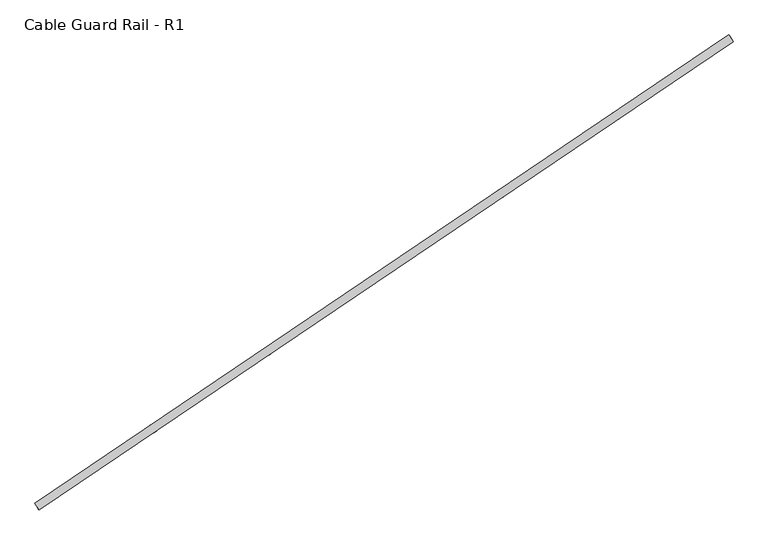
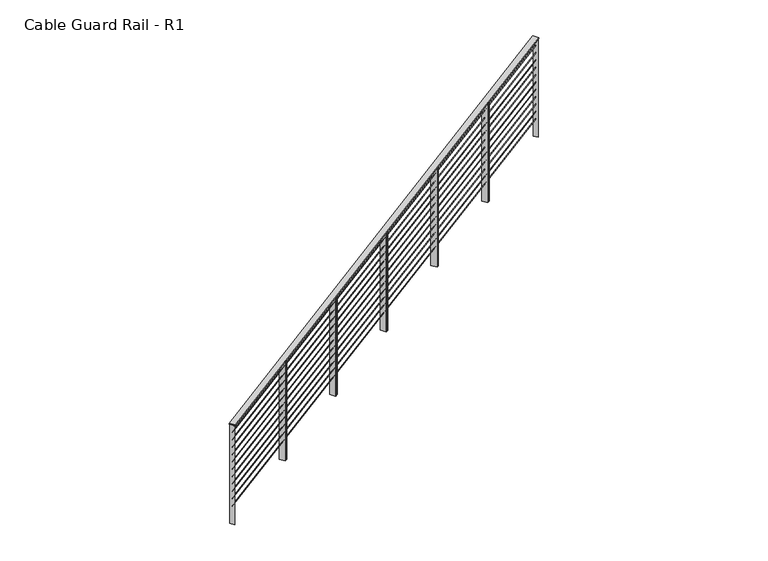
"""IFC4 building model written with IfcOpenShell, lengths in millimetres: railing geometry, Cable Guard Rail - R1."""

from ifc_helpers import new_model, si_unit, frame, origin, place, context, project, spatial, polyline, ellipse_curve, outline, extrude, faceted_brep, source, transform, mapped, element, save
from ifc_brep_helpers import plane_surface, cylinder_surface, advanced_brep


def cable_guard_rail_r1_a56fe9ce(model_context):
    return source(origin(), model_context, "Body", "SolidModel", [
        faceted_brep([(46534.635688, 176651.9812414, 294474.9), (46577.3032099, 176588.8470781, 294474.9), (46577.3032099, 176588.8470781, 294462.1825136), (46534.635688, 176651.9812414, 294462.1825136), (40031.8168706, 172257.2264829, 294062.8921736), (40031.8168706, 172257.2264829, 294050.1746872), (40074.4843925, 172194.0923196, 294050.1746872), (40074.4843925, 172194.0923196, 294062.8921736)], [[[0, 1, 2, 3]], [[4, 5, 6, 7]], [[1, 0, 4, 7]], [[2, 1, 7, 6]], [[3, 2, 6, 5]], [[0, 3, 5, 4]]]),
        advanced_brep(
        [(46557.7472624, 176617.7835696, 294360.6), (46554.1916356, 176623.0447499, 294360.6), (40054.9284449, 172223.0288111, 293948.5921736), (40051.3728181, 172228.2899914, 293948.5921736)],
        [
            (0, 1, ellipse_curve(frame((46555.969449, 176620.4141597, 294360.6), z_axis=(0.8285323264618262, 0.5599412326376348, 0.0), x_axis=(0.0, 0.0, 1.0)), 3.1793716, 3.175)),
            (1, 0, ellipse_curve(frame((46555.969449, 176620.4141597, 294360.6), z_axis=(0.8285323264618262, 0.5599412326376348, 0.0), x_axis=(0.0, 0.0, 1.0)), 3.1793716, 3.175)),
            (2, 3, ellipse_curve(frame((40053.1506315, 172225.6594012, 293948.5921736), z_axis=(-0.8285323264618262, -0.5599412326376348, 0.0), x_axis=(0.0, 0.0, 1.0)), 3.1793716, 3.175)),
            (3, 2, ellipse_curve(frame((40053.1506315, 172225.6594012, 293948.5921736), z_axis=(-0.8285323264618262, -0.5599412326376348, 0.0), x_axis=(0.0, 0.0, 1.0)), 3.1793716, 3.175)),
            (0, 2),
            (3, 1),
        ],
        [
            plane_surface(frame((46555.969449, 176620.4141597, 294360.6), z_axis=(0.8285323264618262, 0.5599412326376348, 0.0), x_axis=(0.5599412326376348, -0.8285323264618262, 0.0))),
            plane_surface(frame((40053.1506315, 172225.6594012, 293948.5921736), z_axis=(-0.8285323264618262, -0.5599412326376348, 0.0), x_axis=(0.5599412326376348, -0.8285323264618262, 0.0))),
            cylinder_surface(frame((46555.969449, 176620.4141597, 294360.6), z_axis=(0.8273931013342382, 0.5591713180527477, 0.05242225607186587), x_axis=(-0.5599412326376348, 0.8285323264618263, 0.0)), 3.175),
        ],
        [
            (0, [[1, 2]]),
            (1, [[3, 4]]),
            (2, [[-1, 5, -4, 6]]),
            (2, [[-2, -6, -3, -5]]),
        ],
    ),
        advanced_brep(
        [(46557.7472624, 176617.7835696, 294259.0), (46554.1916356, 176623.0447499, 294259.0), (40054.9284449, 172223.0288111, 293846.9921736), (40051.3728181, 172228.2899914, 293846.9921736)],
        [
            (0, 1, ellipse_curve(frame((46555.969449, 176620.4141597, 294259.0), z_axis=(0.8285323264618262, 0.5599412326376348, 0.0), x_axis=(0.0, 0.0, 1.0)), 3.1793716, 3.175)),
            (1, 0, ellipse_curve(frame((46555.969449, 176620.4141597, 294259.0), z_axis=(0.8285323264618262, 0.5599412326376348, 0.0), x_axis=(0.0, 0.0, 1.0)), 3.1793716, 3.175)),
            (2, 3, ellipse_curve(frame((40053.1506315, 172225.6594012, 293846.9921736), z_axis=(-0.8285323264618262, -0.5599412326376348, 0.0), x_axis=(0.0, 0.0, 1.0)), 3.1793716, 3.175)),
            (3, 2, ellipse_curve(frame((40053.1506315, 172225.6594012, 293846.9921736), z_axis=(-0.8285323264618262, -0.5599412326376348, 0.0), x_axis=(0.0, 0.0, 1.0)), 3.1793716, 3.175)),
            (0, 2),
            (3, 1),
        ],
        [
            plane_surface(frame((46555.969449, 176620.4141597, 294259.0), z_axis=(0.8285323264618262, 0.5599412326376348, 0.0), x_axis=(0.5599412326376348, -0.8285323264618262, 0.0))),
            plane_surface(frame((40053.1506315, 172225.6594012, 293846.9921736), z_axis=(-0.8285323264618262, -0.5599412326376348, 0.0), x_axis=(0.5599412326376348, -0.8285323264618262, 0.0))),
            cylinder_surface(frame((46555.969449, 176620.4141597, 294259.0), z_axis=(0.8273931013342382, 0.5591713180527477, 0.05242225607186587), x_axis=(-0.5599412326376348, 0.8285323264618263, 0.0)), 3.175),
        ],
        [
            (0, [[1, 2]]),
            (1, [[3, 4]]),
            (2, [[-1, 5, -4, 6]]),
            (2, [[-2, -6, -3, -5]]),
        ],
    ),
        advanced_brep(
        [(46557.7472624, 176617.7835696, 294157.4), (46554.1916356, 176623.0447499, 294157.4), (40054.9284449, 172223.0288111, 293745.3921736), (40051.3728181, 172228.2899914, 293745.3921736)],
        [
            (0, 1, ellipse_curve(frame((46555.969449, 176620.4141597, 294157.4), z_axis=(0.8285323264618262, 0.5599412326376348, 0.0), x_axis=(0.0, 0.0, 1.0)), 3.1793716, 3.175)),
            (1, 0, ellipse_curve(frame((46555.969449, 176620.4141597, 294157.4), z_axis=(0.8285323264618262, 0.5599412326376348, 0.0), x_axis=(0.0, 0.0, 1.0)), 3.1793716, 3.175)),
            (2, 3, ellipse_curve(frame((40053.1506315, 172225.6594012, 293745.3921736), z_axis=(-0.8285323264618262, -0.5599412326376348, 0.0), x_axis=(0.0, 0.0, 1.0)), 3.1793716, 3.175)),
            (3, 2, ellipse_curve(frame((40053.1506315, 172225.6594012, 293745.3921736), z_axis=(-0.8285323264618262, -0.5599412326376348, 0.0), x_axis=(0.0, 0.0, 1.0)), 3.1793716, 3.175)),
            (0, 2),
            (3, 1),
        ],
        [
            plane_surface(frame((46555.969449, 176620.4141597, 294157.4), z_axis=(0.8285323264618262, 0.5599412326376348, 0.0), x_axis=(0.5599412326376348, -0.8285323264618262, 0.0))),
            plane_surface(frame((40053.1506315, 172225.6594012, 293745.3921736), z_axis=(-0.8285323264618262, -0.5599412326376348, 0.0), x_axis=(0.5599412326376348, -0.8285323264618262, 0.0))),
            cylinder_surface(frame((46555.969449, 176620.4141597, 294157.4), z_axis=(0.8273931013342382, 0.5591713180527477, 0.05242225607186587), x_axis=(-0.5599412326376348, 0.8285323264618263, 0.0)), 3.175),
        ],
        [
            (0, [[1, 2]]),
            (1, [[3, 4]]),
            (2, [[-1, 5, -4, 6]]),
            (2, [[-2, -6, -3, -5]]),
        ],
    ),
        advanced_brep(
        [(46557.7472624, 176617.7835696, 294055.8), (46554.1916356, 176623.0447499, 294055.8), (40054.9284449, 172223.0288111, 293643.7921736), (40051.3728181, 172228.2899914, 293643.7921736)],
        [
            (0, 1, ellipse_curve(frame((46555.969449, 176620.4141597, 294055.8), z_axis=(0.8285323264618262, 0.5599412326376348, 0.0), x_axis=(0.0, 0.0, 1.0)), 3.1793716, 3.175)),
            (1, 0, ellipse_curve(frame((46555.969449, 176620.4141597, 294055.8), z_axis=(0.8285323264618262, 0.5599412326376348, 0.0), x_axis=(0.0, 0.0, 1.0)), 3.1793716, 3.175)),
            (2, 3, ellipse_curve(frame((40053.1506315, 172225.6594012, 293643.7921736), z_axis=(-0.8285323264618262, -0.5599412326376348, 0.0), x_axis=(0.0, 0.0, 1.0)), 3.1793716, 3.175)),
            (3, 2, ellipse_curve(frame((40053.1506315, 172225.6594012, 293643.7921736), z_axis=(-0.8285323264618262, -0.5599412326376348, 0.0), x_axis=(0.0, 0.0, 1.0)), 3.1793716, 3.175)),
            (0, 2),
            (3, 1),
        ],
        [
            plane_surface(frame((46555.969449, 176620.4141597, 294055.8), z_axis=(0.8285323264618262, 0.5599412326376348, 0.0), x_axis=(0.5599412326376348, -0.8285323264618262, 0.0))),
            plane_surface(frame((40053.1506315, 172225.6594012, 293643.7921736), z_axis=(-0.8285323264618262, -0.5599412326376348, 0.0), x_axis=(0.5599412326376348, -0.8285323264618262, 0.0))),
            cylinder_surface(frame((46555.969449, 176620.4141597, 294055.8), z_axis=(0.8273931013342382, 0.5591713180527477, 0.05242225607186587), x_axis=(-0.5599412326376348, 0.8285323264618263, 0.0)), 3.175),
        ],
        [
            (0, [[1, 2]]),
            (1, [[3, 4]]),
            (2, [[-1, 5, -4, 6]]),
            (2, [[-2, -6, -3, -5]]),
        ],
    ),
        advanced_brep(
        [(46557.7472624, 176617.7835696, 293954.2), (46554.1916356, 176623.0447499, 293954.2), (40054.9284449, 172223.0288111, 293542.1921736), (40051.3728181, 172228.2899914, 293542.1921736)],
        [
            (0, 1, ellipse_curve(frame((46555.969449, 176620.4141597, 293954.2), z_axis=(0.8285323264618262, 0.5599412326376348, 0.0), x_axis=(0.0, 0.0, 1.0)), 3.1793716, 3.175)),
            (1, 0, ellipse_curve(frame((46555.969449, 176620.4141597, 293954.2), z_axis=(0.8285323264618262, 0.5599412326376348, 0.0), x_axis=(0.0, 0.0, 1.0)), 3.1793716, 3.175)),
            (2, 3, ellipse_curve(frame((40053.1506315, 172225.6594012, 293542.1921736), z_axis=(-0.8285323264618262, -0.5599412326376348, 0.0), x_axis=(0.0, 0.0, 1.0)), 3.1793716, 3.175)),
            (3, 2, ellipse_curve(frame((40053.1506315, 172225.6594012, 293542.1921736), z_axis=(-0.8285323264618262, -0.5599412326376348, 0.0), x_axis=(0.0, 0.0, 1.0)), 3.1793716, 3.175)),
            (0, 2),
            (3, 1),
        ],
        [
            plane_surface(frame((46555.969449, 176620.4141597, 293954.2), z_axis=(0.8285323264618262, 0.5599412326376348, 0.0), x_axis=(0.5599412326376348, -0.8285323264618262, 0.0))),
            plane_surface(frame((40053.1506315, 172225.6594012, 293542.1921736), z_axis=(-0.8285323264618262, -0.5599412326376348, 0.0), x_axis=(0.5599412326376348, -0.8285323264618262, 0.0))),
            cylinder_surface(frame((46555.969449, 176620.4141597, 293954.2), z_axis=(0.8273931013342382, 0.5591713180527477, 0.05242225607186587), x_axis=(-0.5599412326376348, 0.8285323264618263, 0.0)), 3.175),
        ],
        [
            (0, [[1, 2]]),
            (1, [[3, 4]]),
            (2, [[-1, 5, -4, 6]]),
            (2, [[-2, -6, -3, -5]]),
        ],
    ),
        advanced_brep(
        [(46557.7472624, 176617.7835696, 293852.6), (46554.1916356, 176623.0447499, 293852.6), (40054.9284449, 172223.0288111, 293440.5921736), (40051.3728181, 172228.2899914, 293440.5921736)],
        [
            (0, 1, ellipse_curve(frame((46555.969449, 176620.4141597, 293852.6), z_axis=(0.8285323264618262, 0.5599412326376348, 0.0), x_axis=(0.0, 0.0, 1.0)), 3.1793716, 3.175)),
            (1, 0, ellipse_curve(frame((46555.969449, 176620.4141597, 293852.6), z_axis=(0.8285323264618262, 0.5599412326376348, 0.0), x_axis=(0.0, 0.0, 1.0)), 3.1793716, 3.175)),
            (2, 3, ellipse_curve(frame((40053.1506315, 172225.6594012, 293440.5921736), z_axis=(-0.8285323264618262, -0.5599412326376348, 0.0), x_axis=(0.0, 0.0, 1.0)), 3.1793716, 3.175)),
            (3, 2, ellipse_curve(frame((40053.1506315, 172225.6594012, 293440.5921736), z_axis=(-0.8285323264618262, -0.5599412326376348, 0.0), x_axis=(0.0, 0.0, 1.0)), 3.1793716, 3.175)),
            (0, 2),
            (3, 1),
        ],
        [
            plane_surface(frame((46555.969449, 176620.4141597, 293852.6), z_axis=(0.8285323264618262, 0.5599412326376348, 0.0), x_axis=(0.5599412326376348, -0.8285323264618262, 0.0))),
            plane_surface(frame((40053.1506315, 172225.6594012, 293440.5921736), z_axis=(-0.8285323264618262, -0.5599412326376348, 0.0), x_axis=(0.5599412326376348, -0.8285323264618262, 0.0))),
            cylinder_surface(frame((46555.969449, 176620.4141597, 293852.6), z_axis=(0.8273931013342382, 0.5591713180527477, 0.05242225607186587), x_axis=(-0.5599412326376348, 0.8285323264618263, 0.0)), 3.175),
        ],
        [
            (0, [[1, 2]]),
            (1, [[3, 4]]),
            (2, [[-1, 5, -4, 6]]),
            (2, [[-2, -6, -3, -5]]),
        ],
    ),
        advanced_brep(
        [(46557.7472624, 176617.7835696, 293751.0), (46554.1916356, 176623.0447499, 293751.0), (40054.9284449, 172223.0288111, 293338.9921736), (40051.3728181, 172228.2899914, 293338.9921736)],
        [
            (0, 1, ellipse_curve(frame((46555.969449, 176620.4141597, 293751.0), z_axis=(0.8285323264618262, 0.5599412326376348, 0.0), x_axis=(0.0, 0.0, 1.0)), 3.1793716, 3.175)),
            (1, 0, ellipse_curve(frame((46555.969449, 176620.4141597, 293751.0), z_axis=(0.8285323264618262, 0.5599412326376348, 0.0), x_axis=(0.0, 0.0, 1.0)), 3.1793716, 3.175)),
            (2, 3, ellipse_curve(frame((40053.1506315, 172225.6594012, 293338.9921736), z_axis=(-0.8285323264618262, -0.5599412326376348, 0.0), x_axis=(0.0, 0.0, 1.0)), 3.1793716, 3.175)),
            (3, 2, ellipse_curve(frame((40053.1506315, 172225.6594012, 293338.9921736), z_axis=(-0.8285323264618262, -0.5599412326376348, 0.0), x_axis=(0.0, 0.0, 1.0)), 3.1793716, 3.175)),
            (0, 2),
            (3, 1),
        ],
        [
            plane_surface(frame((46555.969449, 176620.4141597, 293751.0), z_axis=(0.8285323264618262, 0.5599412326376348, 0.0), x_axis=(0.5599412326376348, -0.8285323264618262, 0.0))),
            plane_surface(frame((40053.1506315, 172225.6594012, 293338.9921736), z_axis=(-0.8285323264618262, -0.5599412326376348, 0.0), x_axis=(0.5599412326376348, -0.8285323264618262, 0.0))),
            cylinder_surface(frame((46555.969449, 176620.4141597, 293751.0), z_axis=(0.8273931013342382, 0.5591713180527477, 0.05242225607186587), x_axis=(-0.5599412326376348, 0.8285323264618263, 0.0)), 3.175),
        ],
        [
            (0, [[1, 2]]),
            (1, [[3, 4]]),
            (2, [[-1, 5, -4, 6]]),
            (2, [[-2, -6, -3, -5]]),
        ],
    ),
        advanced_brep(
        [(46557.7472624, 176617.7835696, 293649.4), (46554.1916356, 176623.0447499, 293649.4), (40054.9284449, 172223.0288111, 293237.3921736), (40051.3728181, 172228.2899914, 293237.3921736)],
        [
            (0, 1, ellipse_curve(frame((46555.969449, 176620.4141597, 293649.4), z_axis=(0.8285323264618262, 0.5599412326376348, 0.0), x_axis=(0.0, 0.0, 1.0)), 3.1793716, 3.175)),
            (1, 0, ellipse_curve(frame((46555.969449, 176620.4141597, 293649.4), z_axis=(0.8285323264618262, 0.5599412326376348, 0.0), x_axis=(0.0, 0.0, 1.0)), 3.1793716, 3.175)),
            (2, 3, ellipse_curve(frame((40053.1506315, 172225.6594012, 293237.3921736), z_axis=(-0.8285323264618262, -0.5599412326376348, 0.0), x_axis=(0.0, 0.0, 1.0)), 3.1793716, 3.175)),
            (3, 2, ellipse_curve(frame((40053.1506315, 172225.6594012, 293237.3921736), z_axis=(-0.8285323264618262, -0.5599412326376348, 0.0), x_axis=(0.0, 0.0, 1.0)), 3.1793716, 3.175)),
            (0, 2),
            (3, 1),
        ],
        [
            plane_surface(frame((46555.969449, 176620.4141597, 293649.4), z_axis=(0.8285323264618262, 0.5599412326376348, 0.0), x_axis=(0.5599412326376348, -0.8285323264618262, 0.0))),
            plane_surface(frame((40053.1506315, 172225.6594012, 293237.3921736), z_axis=(-0.8285323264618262, -0.5599412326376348, 0.0), x_axis=(0.5599412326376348, -0.8285323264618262, 0.0))),
            cylinder_surface(frame((46555.969449, 176620.4141597, 293649.4), z_axis=(0.8273931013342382, 0.5591713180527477, 0.05242225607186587), x_axis=(-0.5599412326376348, 0.8285323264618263, 0.0)), 3.175),
        ],
        [
            (0, [[1, 2]]),
            (1, [[3, 4]]),
            (2, [[-1, 5, -4, 6]]),
            (2, [[-2, -6, -3, -5]]),
        ],
    ),
        advanced_brep(
        [(46557.7472624, 176617.7835696, 293547.8), (46554.1916356, 176623.0447499, 293547.8), (40054.9284449, 172223.0288111, 293135.7921736), (40051.3728181, 172228.2899914, 293135.7921736)],
        [
            (0, 1, ellipse_curve(frame((46555.969449, 176620.4141597, 293547.8), z_axis=(0.8285323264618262, 0.5599412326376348, 0.0), x_axis=(0.0, 0.0, 1.0)), 3.1793716, 3.175)),
            (1, 0, ellipse_curve(frame((46555.969449, 176620.4141597, 293547.8), z_axis=(0.8285323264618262, 0.5599412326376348, 0.0), x_axis=(0.0, 0.0, 1.0)), 3.1793716, 3.175)),
            (2, 3, ellipse_curve(frame((40053.1506315, 172225.6594012, 293135.7921736), z_axis=(-0.8285323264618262, -0.5599412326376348, 0.0), x_axis=(0.0, 0.0, 1.0)), 3.1793716, 3.175)),
            (3, 2, ellipse_curve(frame((40053.1506315, 172225.6594012, 293135.7921736), z_axis=(-0.8285323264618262, -0.5599412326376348, 0.0), x_axis=(0.0, 0.0, 1.0)), 3.1793716, 3.175)),
            (0, 2),
            (3, 1),
        ],
        [
            plane_surface(frame((46555.969449, 176620.4141597, 293547.8), z_axis=(0.8285323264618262, 0.5599412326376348, 0.0), x_axis=(0.5599412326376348, -0.8285323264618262, 0.0))),
            plane_surface(frame((40053.1506315, 172225.6594012, 293135.7921736), z_axis=(-0.8285323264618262, -0.5599412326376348, 0.0), x_axis=(0.5599412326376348, -0.8285323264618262, 0.0))),
            cylinder_surface(frame((46555.969449, 176620.4141597, 293547.8), z_axis=(0.8273931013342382, 0.5591713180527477, 0.05242225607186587), x_axis=(-0.5599412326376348, 0.8285323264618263, 0.0)), 3.175),
        ],
        [
            (0, [[1, 2]]),
            (1, [[3, 4]]),
            (2, [[-1, 5, -4, 6]]),
            (2, [[-2, -6, -3, -5]]),
        ],
    ),
        advanced_brep(
        [(46557.7472624, 176617.7835696, 293446.2), (46554.1916356, 176623.0447499, 293446.2), (40054.9284449, 172223.0288111, 293034.1921736), (40051.3728181, 172228.2899914, 293034.1921736)],
        [
            (0, 1, ellipse_curve(frame((46555.969449, 176620.4141597, 293446.2), z_axis=(0.8285323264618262, 0.5599412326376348, 0.0), x_axis=(0.0, 0.0, 1.0)), 3.1793716, 3.175)),
            (1, 0, ellipse_curve(frame((46555.969449, 176620.4141597, 293446.2), z_axis=(0.8285323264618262, 0.5599412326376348, 0.0), x_axis=(0.0, 0.0, 1.0)), 3.1793716, 3.175)),
            (2, 3, ellipse_curve(frame((40053.1506315, 172225.6594012, 293034.1921736), z_axis=(-0.8285323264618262, -0.5599412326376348, 0.0), x_axis=(0.0, 0.0, 1.0)), 3.1793716, 3.175)),
            (3, 2, ellipse_curve(frame((40053.1506315, 172225.6594012, 293034.1921736), z_axis=(-0.8285323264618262, -0.5599412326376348, 0.0), x_axis=(0.0, 0.0, 1.0)), 3.1793716, 3.175)),
            (0, 2),
            (3, 1),
        ],
        [
            plane_surface(frame((46555.969449, 176620.4141597, 293446.2), z_axis=(0.8285323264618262, 0.5599412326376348, 0.0), x_axis=(0.5599412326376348, -0.8285323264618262, 0.0))),
            plane_surface(frame((40053.1506315, 172225.6594012, 293034.1921736), z_axis=(-0.8285323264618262, -0.5599412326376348, 0.0), x_axis=(0.5599412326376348, -0.8285323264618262, 0.0))),
            cylinder_surface(frame((46555.969449, 176620.4141597, 293446.2), z_axis=(0.8273931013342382, 0.5591713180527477, 0.05242225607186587), x_axis=(-0.5599412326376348, 0.8285323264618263, 0.0)), 3.175),
        ],
        [
            (0, [[1, 2]]),
            (1, [[3, 4]]),
            (2, [[-1, 5, -4, 6]]),
            (2, [[-2, -6, -3, -5]]),
        ],
    ),
        advanced_brep(
        [(46557.7472624, 176617.7835696, 293344.6), (46554.1916356, 176623.0447499, 293344.6), (40054.9284449, 172223.0288111, 292932.5921736), (40051.3728181, 172228.2899914, 292932.5921736)],
        [
            (0, 1, ellipse_curve(frame((46555.969449, 176620.4141597, 293344.6), z_axis=(0.8285323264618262, 0.5599412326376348, 0.0), x_axis=(0.0, 0.0, 1.0)), 3.1793716, 3.175)),
            (1, 0, ellipse_curve(frame((46555.969449, 176620.4141597, 293344.6), z_axis=(0.8285323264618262, 0.5599412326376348, 0.0), x_axis=(0.0, 0.0, 1.0)), 3.1793716, 3.175)),
            (2, 3, ellipse_curve(frame((40053.1506315, 172225.6594012, 292932.5921736), z_axis=(-0.8285323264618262, -0.5599412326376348, 0.0), x_axis=(0.0, 0.0, 1.0)), 3.1793716, 3.175)),
            (3, 2, ellipse_curve(frame((40053.1506315, 172225.6594012, 292932.5921736), z_axis=(-0.8285323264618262, -0.5599412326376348, 0.0), x_axis=(0.0, 0.0, 1.0)), 3.1793716, 3.175)),
            (0, 2),
            (3, 1),
        ],
        [
            plane_surface(frame((46555.969449, 176620.4141597, 293344.6), z_axis=(0.8285323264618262, 0.5599412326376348, 0.0), x_axis=(0.5599412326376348, -0.8285323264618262, 0.0))),
            plane_surface(frame((40053.1506315, 172225.6594012, 292932.5921736), z_axis=(-0.8285323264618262, -0.5599412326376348, 0.0), x_axis=(0.5599412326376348, -0.8285323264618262, 0.0))),
            cylinder_surface(frame((46555.969449, 176620.4141597, 293344.6), z_axis=(0.8273931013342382, 0.5591713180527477, 0.05242225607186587), x_axis=(-0.5599412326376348, 0.8285323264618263, 0.0)), 3.175),
        ],
        [
            (0, [[1, 2]]),
            (1, [[3, 4]]),
            (2, [[-1, 5, -4, 6]]),
            (2, [[-2, -6, -3, -5]]),
        ],
    ),
        extrude(outline(polyline([(41176.7016597, 172938.9961399), (41168.8098893, 172933.6626997), (41126.1423673, 172996.796863), (41134.0341378, 173002.1303032), (41176.7016597, 172938.9961399)])), frame((0.0, 0.0, 292753.6101447), z_axis=(0.0, 0.0, 1.0), x_axis=(1.0, 0.0, 0.0)), (0.0, 0.0, 1.0), 1365.25),
        extrude(outline(polyline([(41153.0263485, 172922.9958192), (41145.1745426, 172917.6893879), (41102.5070207, 172980.8235512), (41110.3588265, 172986.1299825), (41153.0263485, 172922.9958192)])), frame((0.0, 0.0, 292753.6101447), z_axis=(0.0, 0.0, 1.0), x_axis=(1.0, 0.0, 0.0)), (0.0, 0.0, 1.0), 1365.25),
        extrude(outline(polyline([(42260.5047959, 173671.4552663), (42252.6130255, 173666.1218261), (42209.9455036, 173729.2559894), (42217.837274, 173734.5894296), (42260.5047959, 173671.4552663)])), frame((0.0, 0.0, 292822.2781158), z_axis=(0.0, 0.0, 1.0), x_axis=(1.0, 0.0, 0.0)), (0.0, 0.0, 1.0), 1365.25),
        extrude(outline(polyline([(42236.8294847, 173655.4549456), (42228.9776789, 173650.1485143), (42186.3101569, 173713.2826776), (42194.1619628, 173718.5891089), (42236.8294847, 173655.4549456)])), frame((0.0, 0.0, 292822.2781158), z_axis=(0.0, 0.0, 1.0), x_axis=(1.0, 0.0, 0.0)), (0.0, 0.0, 1.0), 1365.25),
        extrude(outline(polyline([(43344.3079322, 174403.9143927), (43336.4161618, 174398.5809525), (43293.7486398, 174461.7151158), (43301.6404102, 174467.048556), (43344.3079322, 174403.9143927)])), frame((0.0, 0.0, 292890.9460868), z_axis=(0.0, 0.0, 1.0), x_axis=(1.0, 0.0, 0.0)), (0.0, 0.0, 1.0), 1365.25),
        extrude(outline(polyline([(43320.6326209, 174387.914072), (43312.7808151, 174382.6076408), (43270.1132932, 174445.741804), (43277.965099, 174451.0482353), (43320.6326209, 174387.914072)])), frame((0.0, 0.0, 292890.9460868), z_axis=(0.0, 0.0, 1.0), x_axis=(1.0, 0.0, 0.0)), (0.0, 0.0, 1.0), 1365.25),
        extrude(outline(polyline([(44428.1110684, 175136.3735192), (44420.219298, 175131.0400789), (44377.5517761, 175194.1742422), (44385.4435465, 175199.5076824), (44428.1110684, 175136.3735192)])), frame((0.0, 0.0, 292959.6140579), z_axis=(0.0, 0.0, 1.0), x_axis=(1.0, 0.0, 0.0)), (0.0, 0.0, 1.0), 1365.25),
        extrude(outline(polyline([(44404.4357572, 175120.3731984), (44396.5839513, 175115.0667672), (44353.9164294, 175178.2009305), (44361.7682353, 175183.5073617), (44404.4357572, 175120.3731984)])), frame((0.0, 0.0, 292959.6140579), z_axis=(0.0, 0.0, 1.0), x_axis=(1.0, 0.0, 0.0)), (0.0, 0.0, 1.0), 1365.25),
        extrude(outline(polyline([(45511.9142047, 175868.8326456), (45504.0224342, 175863.4992053), (45461.3549123, 175926.6333686), (45469.2466827, 175931.9668088), (45511.9142047, 175868.8326456)])), frame((0.0, 0.0, 293028.2820289), z_axis=(0.0, 0.0, 1.0), x_axis=(1.0, 0.0, 0.0)), (0.0, 0.0, 1.0), 1365.25),
        extrude(outline(polyline([(45488.2388934, 175852.8323249), (45480.3870876, 175847.5258936), (45437.7195657, 175910.6600569), (45445.5713715, 175915.9664881), (45488.2388934, 175852.8323249)])), frame((0.0, 0.0, 293028.2820289), z_axis=(0.0, 0.0, 1.0), x_axis=(1.0, 0.0, 0.0)), (0.0, 0.0, 1.0), 1365.25),
        extrude(outline(polyline([(40073.5593558, 172201.1313133), (40068.2981755, 172197.5756865), (40032.7419072, 172250.1874892), (40038.0030875, 172253.743116), (40073.5593558, 172201.1313133)])), frame((0.0, 0.0, 292684.9421736), z_axis=(0.0, 0.0, 1.0), x_axis=(1.0, 0.0, 0.0)), (0.0, 0.0, 1.0), 1365.25),
        extrude(outline(polyline([(46576.3781733, 176595.8860718), (46571.116993, 176592.3304449), (46535.5607247, 176644.9422477), (46540.821905, 176648.4978745), (46576.3781733, 176595.8860718)])), frame((0.0, 0.0, 293096.95), z_axis=(0.0, 0.0, 1.0), x_axis=(1.0, 0.0, 0.0)), (0.0, 0.0, 1.0), 1365.25),
    ])


if __name__ == "__main__":
    model = new_model("IFC4")
    model_context = context("Model", 3, world=origin())
    ifc_project = project(units=[si_unit("LENGTHUNIT", "METRE", prefix="MILLI")], contexts=[model_context])
    site = spatial("IfcSite", under=ifc_project)
    building = spatial("IfcBuilding", under=site)
    placement = place(None, origin())
    cable_guard_rail_r1_shape = cable_guard_rail_r1_a56fe9ce(model_context)
    element("IfcRailing", 1, ObjectType="Cable Guard Rail - R1", at=placement, inside=building, context=model_context, shape_type="MappedRepresentation", body=[
        mapped(cable_guard_rail_r1_shape, transform((0.0, 0.0, 0.0), x_axis=(1.0, 0.0, 0.0), y_axis=(0.0, 1.0, 0.0), z_axis=(0.0, 0.0, 1.0))),
    ])
    save(model, "model.ifc")
